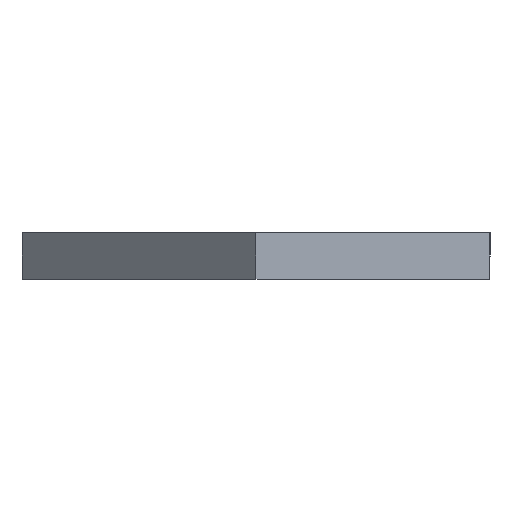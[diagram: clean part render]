
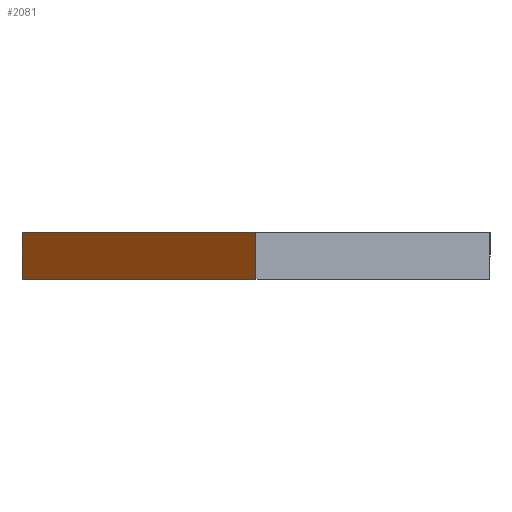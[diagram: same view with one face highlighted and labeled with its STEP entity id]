
A CAD part, left-side view. The second image highlights one B-rep face of the part: STEP entity #2081.
In plain terms, the highlighted planar face has unit normal (-0.707, 0.707, 0).
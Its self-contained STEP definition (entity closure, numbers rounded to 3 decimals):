
#135 = FACE_OUTER_BOUND ( 'NONE', #436, .T. ) ;
#259 = VERTEX_POINT ( 'NONE', #1025 ) ;
#297 = VERTEX_POINT ( 'NONE', #1089 ) ;
#300 = VERTEX_POINT ( 'NONE', #1069 ) ;
#332 = VERTEX_POINT ( 'NONE', #1143 ) ;
#436 = EDGE_LOOP ( 'NONE', ( #798, #813, #865, #791 ) ) ;
#660 = LINE ( 'NONE', #1333, #679 ) ;
#679 = VECTOR ( 'NONE', #1357, 1000. ) ;
#694 = LINE ( 'NONE', #1443, #698 ) ;
#698 = VECTOR ( 'NONE', #1421, 1000. ) ;
#756 = VECTOR ( 'NONE', #1454, 1000. ) ;
#768 = LINE ( 'NONE', #1453, #756 ) ;
#791 = ORIENTED_EDGE ( 'NONE', *, *, #1879, .F. ) ;
#798 = ORIENTED_EDGE ( 'NONE', *, *, #1929, .T. ) ;
#813 = ORIENTED_EDGE ( 'NONE', *, *, #1975, .T. ) ;
#865 = ORIENTED_EDGE ( 'NONE', *, *, #1959, .T. ) ;
#928 = VECTOR ( 'NONE', #1242, 1000. ) ;
#956 = LINE ( 'NONE', #1222, #928 ) ;
#1025 = CARTESIAN_POINT ( 'NONE',  ( -108.694, 10., 0. ) ) ;
#1069 = CARTESIAN_POINT ( 'NONE',  ( -118.694, 0., 0. ) ) ;
#1089 = CARTESIAN_POINT ( 'NONE',  ( -118.694, 0., 2. ) ) ;
#1143 = CARTESIAN_POINT ( 'NONE',  ( -108.694, 10., 2. ) ) ;
#1222 = CARTESIAN_POINT ( 'NONE',  ( -118.694, 0., 2. ) ) ;
#1242 = DIRECTION ( 'NONE',  ( -0.707, -0.707, 0. ) ) ;
#1333 = CARTESIAN_POINT ( 'NONE',  ( -108.694, 10., 2. ) ) ;
#1357 = DIRECTION ( 'NONE',  ( 0., 0., -1. ) ) ;
#1421 = DIRECTION ( 'NONE',  ( 0., 0., 1. ) ) ;
#1443 = CARTESIAN_POINT ( 'NONE',  ( -118.694, 0., 0. ) ) ;
#1453 = CARTESIAN_POINT ( 'NONE',  ( 0., 118.694, 0. ) ) ;
#1454 = DIRECTION ( 'NONE',  ( -0.707, -0.707, 0. ) ) ;
#1758 = PLANE ( 'NONE',  #2240 ) ;
#1783 = CARTESIAN_POINT ( 'NONE',  ( -118.694, 0., 0. ) ) ;
#1789 = DIRECTION ( 'NONE',  ( -0.707, -0.707, 0. ) ) ;
#1793 = DIRECTION ( 'NONE',  ( -0.707, 0.707, 0. ) ) ;
#1879 = EDGE_CURVE ( 'NONE', #332, #297, #956, .T. ) ;
#1929 = EDGE_CURVE ( 'NONE', #332, #259, #660, .T. ) ;
#1959 = EDGE_CURVE ( 'NONE', #300, #297, #694, .T. ) ;
#1975 = EDGE_CURVE ( 'NONE', #259, #300, #768, .T. ) ;
#2081 = ADVANCED_FACE ( 'NONE', ( #135 ), #1758, .T. ) ;
#2240 = AXIS2_PLACEMENT_3D ( 'NONE', #1783, #1793, #1789 ) ;
